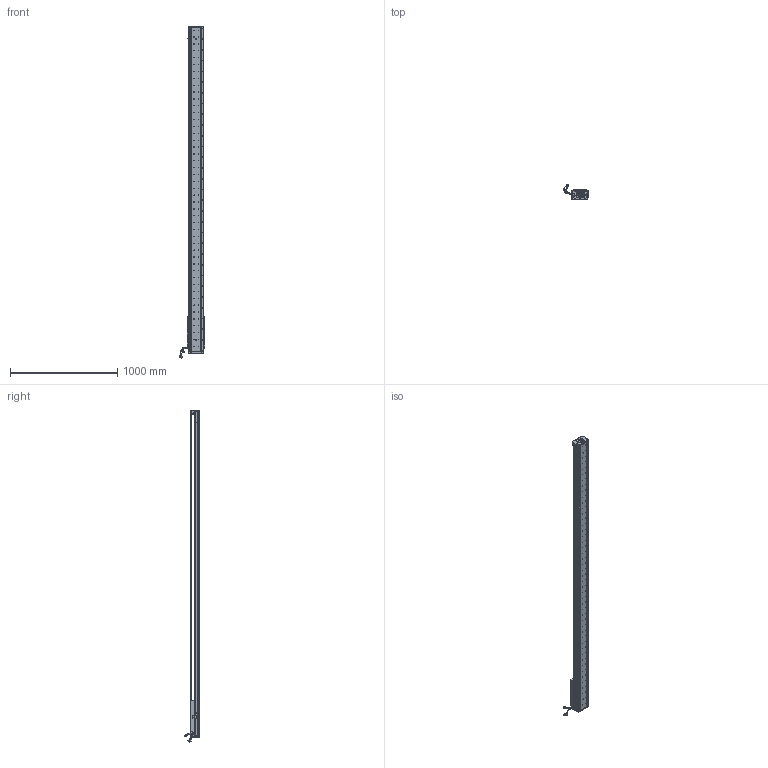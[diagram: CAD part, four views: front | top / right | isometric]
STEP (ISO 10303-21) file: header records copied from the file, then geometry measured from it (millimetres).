
FILE_DESCRIPTION (( 'STEP AP203' ), '1' );
FILE_NAME ('Z4-RY140D-1-L500-B-K.SLDASM_2650.step', '2021-05-17T08:20:45', ( '盈信电脑' ), ( '东莞市道滘镇水果街19号' ), 'SwSTEP 2.0', 'SolidWorks 2016', '' );
FILE_SCHEMA (( 'CONFIG_CONTROL_DESIGN' ));
Length unit declared in the file: millimetre
Products named in the file (36): Z4-RY140-L500詩湍100mm遵_2650; LABEL; Z-140詩湍傷裔啣; SCREW-M1.7; HARNESS-Part-1; SCREW-M1.6; HOLDER0; Z-RY140感应器672光电感应片; SCREW-M1.6-1; COVER; SCREW-M1.7-1; PBU_SHEET; SCREW-M1.6-3; COVER-Part-1; 140雄赽晤鎢ん堤盄; 詩湍奻揤裔; LABEL-Part-1; 080黍杅芛假蚾釱21遴; SCREW-M1.6-2; HARNESS-Part-2; Z4-RY140-L500直线电机模组底座_2650; 140蚥薯蝶輸; SCALE-Part-2; 140-Z-臏賑輸盄裔(21遴); 榋妏寠巭燃_暯_M2_2; Z4-RY140圉猾敕臏賑輸(21遴); SEAL; Z4-RY140D-1-L500-B-K.SLDASM_2650; SHIELDPLATE; SCALE-Part-1; 覜茼ん672; SCALE; SEAL-Part-1; PSLH080_PSLF2; 詩湍狟揤裔; HARNESS
Assembly tree (41 placements, depth 4):
  Z4-RY140D-1-L500-B-K.SLDASM_2650
    Z4-RY140-L500直线电机模组底座_2650
    Z-RY140感应器672光电感应片
    Z4-RY140圉猾敕臏賑輸(21遴)
    覜茼ん672  x3
    Z4-RY140-L500詩湍100mm遵_2650
    PSLH080_PSLF2
      SCALE
        SCALE-Part-1
        SCALE-Part-2
      HARNESS
        HARNESS-Part-1
        HARNESS-Part-2
      LABEL
        LABEL-Part-1
      COVER
        COVER-Part-1
      SEAL
        SEAL-Part-1
      榋妏寠巭燃_暯_M2_2
      SHIELDPLATE
      SCREW-M1.7
      SCREW-M1.7-1
      PBU_SHEET
      SCREW-M1.6
      SCREW-M1.6-1
      SCREW-M1.6-2
      SCREW-M1.6-3
      HOLDER0
    080黍杅芛假蚾釱21遴
    140-Z-臏賑輸盄裔(21遴)
    Z-140詩湍傷裔啣  x2
    詩湍狟揤裔  x2
    詩湍奻揤裔  x2
    140蚥薯蝶輸  x2
    140雄赽晤鎢ん堤盄
Bounding box: 239.79 x 143.88 x 3090.87 mm (x, y, z)
Volume: 9943493.1 mm3; surface area: 2575016.7 mm2
Topology: 36 solids, 36 shells, 4488 faces, 12286 edges, 7785 vertices
Faces by surface type: cylinder 2492, plane 1440, cone 434, torus 69, bspline 53
Entity records: 144682 total; most frequent: CARTESIAN_POINT 41715, ORIENTED_EDGE 21428, DIRECTION 19582, EDGE_CURVE 10714, AXIS2_PLACEMENT_3D 7300, VERTEX_POINT 6953, LINE 4982, VECTOR 4982
